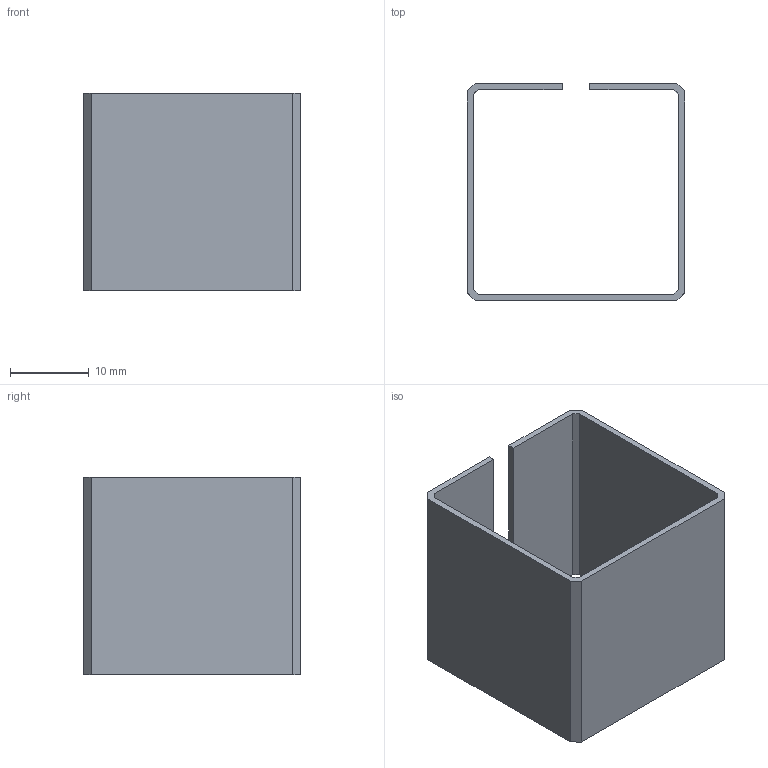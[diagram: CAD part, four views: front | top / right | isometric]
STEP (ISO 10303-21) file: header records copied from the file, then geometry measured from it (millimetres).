
FILE_DESCRIPTION (( 'STEP AP214' ), '1' );
FILE_NAME ('L16106.step', '2024-12-03T16:21:21', ( '' ), ( '' ), 'SwSTEP 2.0', 'SolidWorks 2023', '' );
FILE_SCHEMA (( 'AUTOMOTIVE_DESIGN' ));
Length unit declared in the file: millimetre
Products named in the file (1): L16106
Bounding box: 27.6 x 27.6 x 25 mm (x, y, z)
Volume: 2042 mm3; surface area: 5294.6 mm2
Topology: 1 solids, 1 shells, 22 faces, 60 edges, 40 vertices
Faces by surface type: plane 22
Entity records: 707 total; most frequent: CARTESIAN_POINT 123, ORIENTED_EDGE 120, DIRECTION 106, VECTOR 60, EDGE_CURVE 60, LINE 60, VERTEX_POINT 40, AXIS2_PLACEMENT_3D 23
